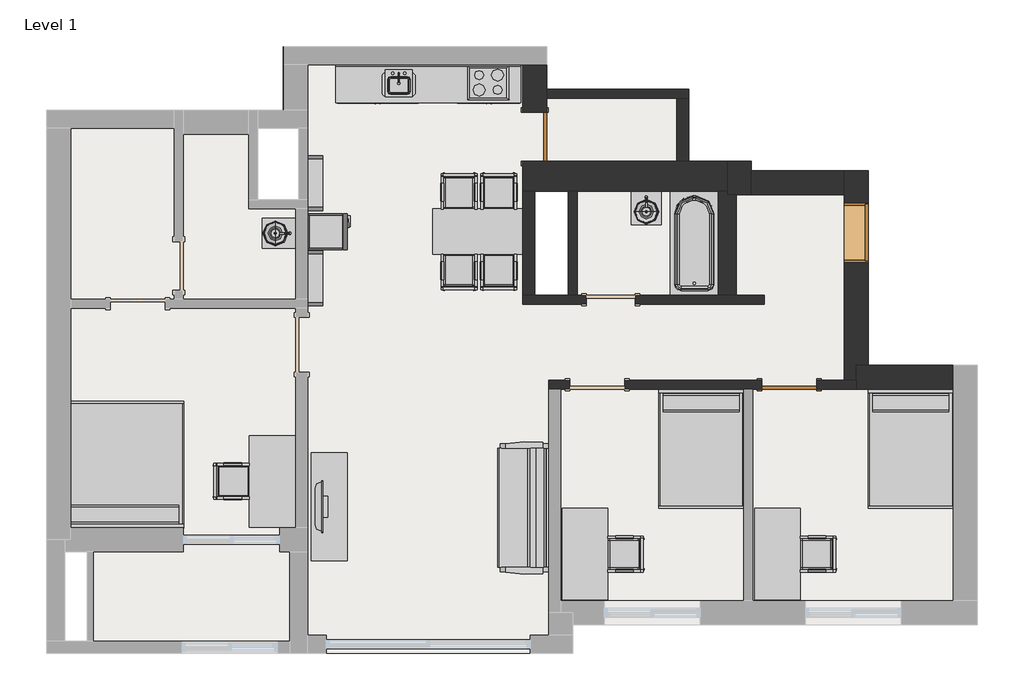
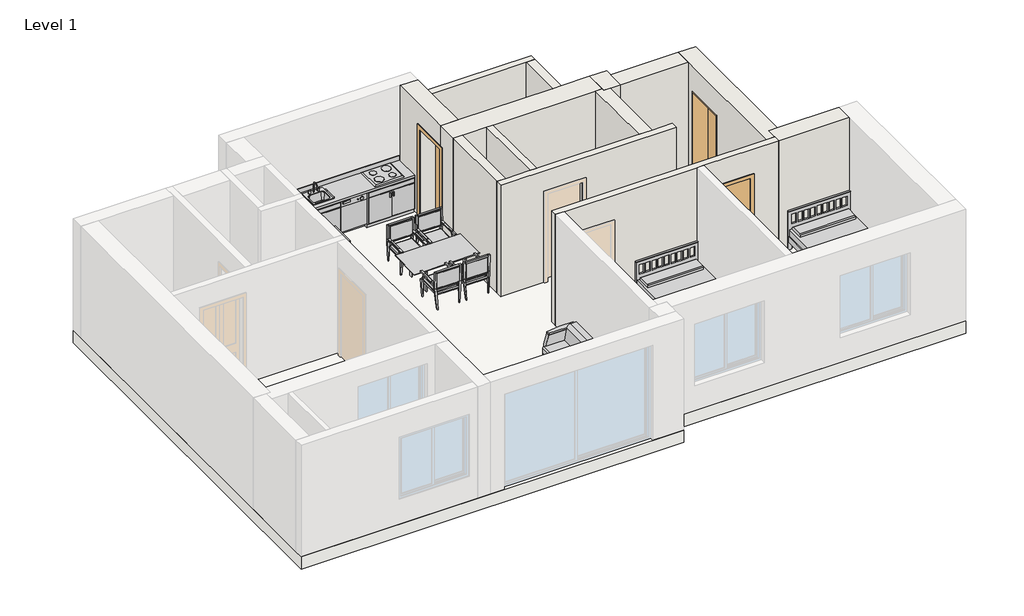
# One storey, part 2 of 2: 20 furniture elements, 13 walls, 4 flow terminals, 4 proxies, 3 doors, 1 slab.
"""IFC4 building model written with IfcOpenShell, lengths in millimetres."""

from ifc_helpers import new_model, si_unit, frame, origin, origin_with_axes, place, context, project, spatial, polyline, outline, extrude, faceted_brep, transform, mapped, element, save
from components import specialty_equipment_54e90587, proxy_0615_x_500mm_249f3515, proxy_600_x_660mm_a466bf94, proxy_610_x_610_x_875mm_54ecfc4c, door_1000_x_2100_mm_43353cf2, m_single_flush_0813_x_2134mm_e3698503, m_single_flush_0915_x_2032mm_d0c19338, flow_terminal_f2fd3159, flow_terminal_1525x_762mm_186bff3d, flow_terminal_450_x_450mm_f969cf2d, furniture_ea7191d8, furniture_142b1b11, furniture_9ca80f25, furniture_0762_x_1525mm_a1e3a7ba, furniture_0810mm_56245f3a, furniture_0915_x_0254_x_1830mm_1d5e155e, furniture_1800x600x400mm_3b2bede9, furniture_2134mm_91f3548c, furniture_600x590x910mm_44f9a749, furniture_600x590x910mm_f1c21ba5

model = new_model("IFC4")

# Units and contexts
model_context = context("Model", 3, world=origin())
ifc_project = project(units=[si_unit("LENGTHUNIT", "METRE", prefix="MILLI")], contexts=[model_context])

# Site, building, storey
site = spatial("IfcSite", under=ifc_project)
building = spatial("IfcBuilding", under=site)
storey = spatial("IfcBuildingStorey", under=building, Name="Level 1", Elevation=0.0)

# Proxies
placement = place(None, origin())
specialty_equipment_shape = specialty_equipment_54e90587(model_context)
element("IfcBuildingElementProxy", 1, Name="간이 부엌 - 중간 - 복사본1 : 간이 부엌 - 중간 - 복사본1", ObjectType="간이 부엌 - 중간 - 복사본1 : 간이 부엌 - 중간 - 복사본1", at=placement, inside=storey, context=model_context, shape_type="MappedRepresentation", body=[
    mapped(specialty_equipment_shape, transform((-1946.9362419, 5343.172032, 0.0), x_axis=(1.0, 0.0, 0.0), y_axis=(0.0, 1.0, 0.0), z_axis=(0.0, 0.0, 1.0))),
])
proxy_0615_x_500mm_shape = proxy_0615_x_500mm_249f3515(model_context)
element("IfcBuildingElementProxy", 2, Name="M_쿡탑-유닛2 4개 : 0615 x 500mm", ObjectType="M_쿡탑-유닛2 4개 : 0615 x 500mm", at=placement, inside=storey, context=model_context, shape_type="MappedRepresentation", body=[
    mapped(proxy_0615_x_500mm_shape, transform((-84.148537, 5044.122032, 15.0), x_axis=(1.0, 0.0, 0.0), y_axis=(0.0, 1.0, 0.0), z_axis=(0.0, 0.0, 1.0))),
])
proxy_600_x_660mm_shape = proxy_600_x_660mm_a466bf94(model_context)
element("IfcBuildingElementProxy", 3, Name="냉장고 : 600 x 660mm", ObjectType="냉장고 : 600 x 660mm", at=placement, inside=storey, context=model_context, shape_type="MappedRepresentation", body=[
    mapped(proxy_600_x_660mm_shape, transform((-2795.5617756, 2616.9731747, 0.0), x_axis=(0.0, 1.0, 0.0), y_axis=(-1.0, 0.0, 0.0), z_axis=(0.0, 0.0, 1.0))),
])
proxy_610_x_610_x_875mm_shape = proxy_610_x_610_x_875mm_54ecfc4c(model_context)
element("IfcBuildingElementProxy", 4, Name="M_식기 세척기 : 610 x 610 x 875mm", ObjectType="M_식기 세척기 : 610 x 610 x 875mm", at=placement, inside=storey, context=model_context, shape_type="MappedRepresentation", body=[
    mapped(proxy_610_x_610_x_875mm_shape, transform((-1310.7160055, 4771.5224672, 0.0), x_axis=(1.0, 0.0, 0.0), y_axis=(0.0, 1.0, 0.0), z_axis=(0.0, 0.0, 1.0))),
])

# Doors
door_1000_x_2100_mm_shape = door_1000_x_2100_mm_43353cf2(model_context)
element("IfcDoor", 5, ObjectType="외여닫이 SD : 1000 x 2100 mm", at=placement, inside=storey, context=model_context, shape_type="MappedRepresentation", body=[
    mapped(door_1000_x_2100_mm_shape, transform((6039.4080051, 2543.172032, 0.0), x_axis=(0.0, 1.0, 0.0), y_axis=(-1.0, 0.0, 0.0), z_axis=(0.0, 0.0, 1.0))),
])
m_single_flush_0813_x_2134mm_shape = m_single_flush_0813_x_2134mm_e3698503(model_context)
element("IfcDoor", 6, ObjectType="M_Single-Flush : 0813 x 2134mm", at=placement, inside=storey, context=model_context, shape_type="MappedRepresentation", body=[
    mapped(m_single_flush_0813_x_2134mm_shape, transform((688.2231342, 4139.672032, 0.0), x_axis=(0.0, -1.0, 0.0), y_axis=(1.0, 0.0, 0.0), z_axis=(0.0, 0.0, 1.0))),
])
m_single_flush_0915_x_2032mm_shape = m_single_flush_0915_x_2032mm_d0c19338(model_context)
element("IfcDoor", 7, ObjectType="M_Single-Flush : 0915 x 2032mm", at=placement, inside=storey, context=model_context, shape_type="MappedRepresentation", body=[
    mapped(m_single_flush_0915_x_2032mm_shape, transform((4928.5630343, 8.172032, 0.0), x_axis=(-1.0, 0.0, 0.0), y_axis=(0.0, -1.0, 0.0), z_axis=(0.0, 0.0, 1.0))),
])

# Flow terminals
flow_terminal_shape = flow_terminal_f2fd3159(model_context)
element("IfcFlowTerminal", 8, ObjectType="싱크대 - 욕실(3) : 싱크대 - 욕실(3)", at=placement, inside=storey, context=model_context, shape_type="MappedRepresentation", body=[
    mapped(flow_terminal_shape, transform((2521.2093991, 3233.172032, 600.0), x_axis=(1.0, 0.0, 0.0), y_axis=(0.0, 1.0, 0.0), z_axis=(0.0, 0.0, 1.0))),
])
element("IfcFlowTerminal", 9, ObjectType="싱크대 - 욕실(3) : 싱크대 - 욕실(3)", at=placement, inside=storey, context=model_context, shape_type="MappedRepresentation", body=[
    mapped(flow_terminal_shape, transform((-3291.7768658, 2558.0218986, 600.0), x_axis=(0.0, -1.0, 0.0), y_axis=(1.0, 0.0, 0.0), z_axis=(0.0, 0.0, 1.0))),
])
flow_terminal_1525x_762mm_shape = flow_terminal_1525x_762mm_186bff3d(model_context)
element("IfcFlowTerminal", 10, ObjectType="욕조-직사각형-3D : 1525x 762mm", at=placement, inside=storey, context=model_context, shape_type="MappedRepresentation", body=[
    mapped(flow_terminal_1525x_762mm_shape, transform((3896.0592657, 2613.7750007, 0.0), x_axis=(0.0, 1.0, 0.0), y_axis=(-1.0, 0.0, 0.0), z_axis=(0.0, 0.0, 1.0))),
])
flow_terminal_450_x_450mm_shape = flow_terminal_450_x_450mm_f969cf2d(model_context)
element("IfcFlowTerminal", 11, ObjectType="M_싱크대 부엌-아일랜드 : 450 x 450mm", at=placement, inside=storey, context=model_context, shape_type="MappedRepresentation", body=[
    mapped(flow_terminal_450_x_450mm_shape, transform((-1589.8377776, 5031.0766309, 15.0), x_axis=(1.0, 0.0, 0.0), y_axis=(0.0, 1.0, 0.0), z_axis=(0.0, 0.0, 1.0))),
])

# Furniture
furniture_shape = furniture_ea7191d8(model_context)
element("IfcFurniture", 12, ObjectType="침대-흔들장치 : 1422 x 1981mm - 이중", at=placement, inside=storey, context=model_context, shape_type="MappedRepresentation", body=[
    mapped(furniture_shape, transform((3479.1130343, -66.827968, 0.0), x_axis=(1.0, 0.0, 0.0), y_axis=(0.0, 1.0, 0.0), z_axis=(0.0, 0.0, 1.0))),
])
element("IfcFurniture", 13, ObjectType="침대-흔들장치 : 1422 x 1981mm - 이중", at=placement, inside=storey, context=model_context, shape_type="MappedRepresentation", body=[
    mapped(furniture_shape, transform((6969.4580051, -66.827968, 0.0), x_axis=(1.0, 0.0, 0.0), y_axis=(0.0, 1.0, 0.0), z_axis=(0.0, 0.0, 1.0))),
])
furniture_2_shape = furniture_142b1b11(model_context)
element("IfcFurniture", 14, ObjectType="침대-흔들장치 : 1981 x 2108mm - 킹", at=placement, inside=storey, context=model_context, shape_type="MappedRepresentation", body=[
    mapped(furniture_2_shape, transform((-6169.1419949, -2366.827968, 0.0), x_axis=(-1.0, 0.0, 0.0), y_axis=(0.0, -1.0, 0.0), z_axis=(0.0, 0.0, 1.0))),
])
furniture_3_shape = furniture_9ca80f25(model_context)
element("IfcFurniture", 15, ObjectType="M_싱크대 개구부가 있는 작업대 상단 : 600mm 깊이", at=placement, inside=storey, context=model_context, shape_type="MappedRepresentation", body=[
    mapped(furniture_3_shape, transform((-1422.6612419, 5336.4541396, 15.0), x_axis=(1.0, 0.0, 0.0), y_axis=(0.0, 1.0, 0.0), z_axis=(0.0, 0.0, 1.0))),
])
furniture_0762_x_1525mm_shape = furniture_0762_x_1525mm_a1e3a7ba(model_context)
element("IfcFurniture", 16, ObjectType="테이블-식탁 : 0762 x 1525mm", at=placement, inside=storey, context=model_context, shape_type="MappedRepresentation", body=[
    mapped(furniture_0762_x_1525mm_shape, transform((-232.3262283, 2657.3831098, 0.0), x_axis=(-1.0, 0.0, 0.0), y_axis=(0.0, -1.0, 0.0), z_axis=(0.0, 0.0, 1.0))),
])
element("IfcFurniture", 17, ObjectType="테이블-식탁 : 0762 x 1525mm", at=placement, inside=storey, context=model_context, shape_type="MappedRepresentation", body=[
    mapped(furniture_0762_x_1525mm_shape, transform((1619.8413989, -2825.0937347, 0.0), x_axis=(0.0, 1.0, 0.0), y_axis=(-1.0, 0.0, 0.0), z_axis=(0.0, 0.0, 1.0))),
])
element("IfcFurniture", 18, ObjectType="테이블-식탁 : 0762 x 1525mm", at=placement, inside=storey, context=model_context, shape_type="MappedRepresentation", body=[
    mapped(furniture_0762_x_1525mm_shape, transform((4823.4582229, -2825.0937347, 0.0), x_axis=(0.0, 1.0, 0.0), y_axis=(-1.0, 0.0, 0.0), z_axis=(0.0, 0.0, 1.0))),
])
element("IfcFurniture", 19, ObjectType="테이블-식탁 : 0762 x 1525mm", at=placement, inside=storey, context=model_context, shape_type="MappedRepresentation", body=[
    mapped(furniture_0762_x_1525mm_shape, transform((-3778.2939108, -1577.5587048, 0.0), x_axis=(0.0, -1.0, 0.0), y_axis=(1.0, 0.0, 0.0), z_axis=(0.0, 0.0, 1.0))),
])
furniture_0810mm_shape = furniture_0810mm_56245f3a(model_context)
element("IfcFurniture", 20, ObjectType="TV-평면 화면 : 0810mm", at=placement, inside=storey, context=model_context, shape_type="MappedRepresentation", body=[
    mapped(furniture_0810mm_shape, transform((-2911.7704729, -2012.8834538, 400.0), x_axis=(0.0, 1.0, 0.0), y_axis=(-1.0, 0.0, 0.0), z_axis=(0.0, 0.0, 1.0))),
])
furniture_0915_x_0254_x_1830mm_shape = furniture_0915_x_0254_x_1830mm_1d5e155e(model_context)
element("IfcFurniture", 21, ObjectType="선반 : 0915 x 0254 x 1830mm", at=placement, inside=storey, context=model_context, shape_type="MappedRepresentation", body=[
    mapped(furniture_0915_x_0254_x_1830mm_shape, transform((-3269.5768658, 1785.672032, 0.0), x_axis=(0.0, 1.0, 0.0), y_axis=(-1.0, 0.0, 0.0), z_axis=(0.0, 0.0, 1.0))),
])
element("IfcFurniture", 22, ObjectType="선반 : 0915 x 0254 x 1830mm", at=placement, inside=storey, context=model_context, shape_type="MappedRepresentation", body=[
    mapped(furniture_0915_x_0254_x_1830mm_shape, transform((-3269.5768658, 3370.672032, 0.0), x_axis=(0.0, 1.0, 0.0), y_axis=(-1.0, 0.0, 0.0), z_axis=(0.0, 0.0, 1.0))),
])
furniture_1800x600x400mm_shape = furniture_1800x600x400mm_3b2bede9(model_context)
element("IfcFurniture", 23, ObjectType="캐비닛 TV : 1800x600x400mm", at=placement, inside=storey, context=model_context, shape_type="MappedRepresentation", body=[
    mapped(furniture_1800x600x400mm_shape, transform((-2702.0919949, -2016.827968, 0.0), x_axis=(0.0, 1.0, 0.0), y_axis=(-1.0, 0.0, 0.0), z_axis=(0.0, 0.0, 1.0))),
])
furniture_2134mm_shape = furniture_2134mm_91f3548c(model_context)
element("IfcFurniture", 24, ObjectType="소파-Pensi : 2134mm", at=placement, inside=storey, context=model_context, shape_type="MappedRepresentation", body=[
    mapped(furniture_2134mm_shape, transform((211.1132981, -1758.221718, 0.0), x_axis=(0.0, -1.0, 0.0), y_axis=(1.0, 0.0, 0.0), z_axis=(0.0, 0.0, 1.0))),
])
furniture_600x590x910mm_shape = furniture_600x590x910mm_44f9a749(model_context)
element("IfcFurniture", 25, ObjectType="의자 2 : 600x590x910mm", at=placement, inside=storey, context=model_context, shape_type="MappedRepresentation", body=[
    mapped(furniture_600x590x910mm_shape, transform((88.2231342, 3233.172032, 0.0), x_axis=(1.0, 0.0, 0.0), y_axis=(0.0, 1.0, 0.0), z_axis=(0.0, 0.0, 1.0))),
])
element("IfcFurniture", 26, ObjectType="의자 2 : 600x590x910mm", at=placement, inside=storey, context=model_context, shape_type="MappedRepresentation", body=[
    mapped(furniture_600x590x910mm_shape, transform((-571.7768658, 3233.172032, 0.0), x_axis=(1.0, 0.0, 0.0), y_axis=(0.0, 1.0, 0.0), z_axis=(0.0, 0.0, 1.0))),
])
element("IfcFurniture", 27, ObjectType="의자 2 : 600x590x910mm", at=placement, inside=storey, context=model_context, shape_type="MappedRepresentation", body=[
    mapped(furniture_600x590x910mm_shape, transform((2200.6700504, -2806.827968, 0.0), x_axis=(0.0, -1.0, 0.0), y_axis=(1.0, 0.0, 0.0), z_axis=(0.0, 0.0, 1.0))),
])
element("IfcFurniture", 28, ObjectType="의자 2 : 600x590x910mm", at=placement, inside=storey, context=model_context, shape_type="MappedRepresentation", body=[
    mapped(furniture_600x590x910mm_shape, transform((5404.2868743, -2806.827968, 0.0), x_axis=(0.0, -1.0, 0.0), y_axis=(1.0, 0.0, 0.0), z_axis=(0.0, 0.0, 1.0))),
])
element("IfcFurniture", 29, ObjectType="의자 2 : 600x590x910mm", at=placement, inside=storey, context=model_context, shape_type="MappedRepresentation", body=[
    mapped(furniture_600x590x910mm_shape, transform((-4359.1225622, -1595.8244715, 0.0), x_axis=(0.0, 1.0, 0.0), y_axis=(-1.0, 0.0, 0.0), z_axis=(0.0, 0.0, 1.0))),
])
furniture_600x590x910mm_2_shape = furniture_600x590x910mm_f1c21ba5(model_context)
element("IfcFurniture", 30, ObjectType="의자 2 : 600x590x910mm", at=placement, inside=storey, context=model_context, shape_type="MappedRepresentation", body=[
    mapped(furniture_600x590x910mm_2_shape, transform((88.2231342, 1891.172032, 0.0), x_axis=(1.0, 0.0, 0.0), y_axis=(0.0, 1.0, 0.0), z_axis=(0.0, 0.0, 1.0))),
])
element("IfcFurniture", 31, ObjectType="의자 2 : 600x590x910mm", at=placement, inside=storey, context=model_context, shape_type="MappedRepresentation", body=[
    mapped(furniture_600x590x910mm_2_shape, transform((-571.7768658, 1891.172032, 0.0), x_axis=(1.0, 0.0, 0.0), y_axis=(0.0, 1.0, 0.0), z_axis=(0.0, 0.0, 1.0))),
])

# Slab
element("IfcSlab", 32, ObjectType="Generic 300mm", at=placement, inside=storey, context=model_context, shape_type="SweptSolid", body=[
    extrude(outline(polyline([(-3500.5919949, 5643.172032), (888.2231342, 5643.172032), (888.2231342, 4933.172032), (3251.0630343, 4933.172032), (3251.0630343, 3733.172032), (4296.0592657, 3733.172032), (4296.0592657, 3573.172032), (6239.4080051, 3573.172032), (6239.4080051, 333.172032), (8059.4080051, 333.172032), (8059.4080051, -3986.827968), (1324.6303211, -3986.827968), (1324.6303211, -4456.827968), (-7440.5919949, -4456.827968), (-7440.5919949, 4583.172032), (-3500.5919949, 4583.172032), (-3500.5919949, 5643.172032)]), holes=[polyline([(1248.2231342, 3233.172032), (688.2231342, 3233.172032), (688.2231342, 1503.172032), (1248.2231342, 1503.172032), (1248.2231342, 3233.172032)]), polyline([(-3241.7768658, 4283.172032), (-3925.5919949, 4283.172032), (-3925.5919949, 3093.172032), (-3241.7768658, 3093.172032), (-3241.7768658, 4283.172032)]), polyline([(-6760.5919949, -2766.827968), (-7140.5919949, -2766.827968), (-7140.5919949, -4256.827968), (-6760.5919949, -4256.827968), (-6760.5919949, -2766.827968)])]), frame((0.0, 0.0, -300.0), z_axis=(0.0, 0.0, 1.0), x_axis=(1.0, 0.0, 0.0)), (0.0, 0.0, 1.0), 300.0),
])

# Walls
element("IfcWall", 33, ObjectType="Generic 150mm Wall", at=placement, inside=storey, context=model_context, shape_type="Brep", body=[
    faceted_brep([(3251.0630343, 4933.172032, 0.0), (888.2231342, 4933.172032, 0.0), (888.2231342, 4933.172032, 2700.0), (3251.0630343, 4933.172032, 2700.0), (3251.0630343, 4783.172032, 0.0), (3251.0630343, 4783.172032, 2700.0), (3051.0630343, 4783.172032, 2700.0), (888.2231342, 4783.172032, 2700.0), (888.2231342, 4783.172032, 0.0), (3051.0630343, 4783.172032, 0.0)], [[[0, 1, 2, 3]], [[4, 5, 6, 7, 8, 9]], [[1, 0, 4, 9, 8]], [[3, 2, 7, 6, 5]], [[0, 3, 5, 4]], [[2, 1, 8, 7]]]),
])
element("IfcWall", 34, ObjectType="Generic 150mm Wall", at=placement, inside=storey, context=model_context, shape_type="SweptSolid", body=[
    extrude(outline(polyline([(1398.2231342, 3233.172032), (1398.2231342, 1503.172032), (1248.2231342, 1503.172032), (1248.2231342, 3233.172032), (1398.2231342, 3233.172032)])), origin_with_axes(), (0.0, 0.0, 1.0), 2700.0),
])
element("IfcWall", 35, ObjectType="Generic 150mm Wall", at=placement, inside=storey, context=model_context, shape_type="Brep", body=[
    faceted_brep([(1548.2231342, 1503.172032, 2134.0), (1548.2231342, 1503.172032, 0.0), (1398.2231342, 1503.172032, 0.0), (1248.2231342, 1503.172032, 0.0), (688.2231342, 1503.172032, 0.0), (488.2231342, 1503.172032, 0.0), (488.2231342, 1503.172032, 2700.0), (688.2231342, 1503.172032, 2700.0), (1248.2231342, 1503.172032, 2700.0), (1398.2231342, 1503.172032, 2700.0), (3746.0592657, 1503.172032, 2700.0), (4046.0592657, 1503.172032, 2700.0), (4508.2231342, 1503.172032, 2700.0), (4508.2231342, 1503.172032, 0.0), (4046.0592657, 1503.172032, 0.0), (3746.0592657, 1503.172032, 0.0), (2361.2231342, 1503.172032, 0.0), (2361.2231342, 1503.172032, 2134.0), (488.2231342, 1353.172032, 0.0), (1548.2231342, 1353.172032, 0.0), (1548.2231342, 1353.172032, 2134.0), (2361.2231342, 1353.172032, 2134.0), (2361.2231342, 1353.172032, 0.0), (4508.2231342, 1353.172032, 0.0), (4508.2231342, 1353.172032, 2700.0), (488.2231342, 1353.172032, 2700.0)], [[[0, 1, 2, 3, 4, 5, 6, 7, 8, 9, 10, 11, 12, 13, 14, 15, 16, 17]], [[18, 19, 20, 21, 22, 23, 24, 25]], [[5, 4, 3, 2, 1, 19, 18]], [[16, 15, 14, 13, 23, 22]], [[12, 11, 10, 9, 8, 7, 6, 25, 24]], [[13, 12, 24, 23]], [[6, 5, 18, 25]], [[20, 19, 1, 0]], [[21, 20, 0, 17]], [[22, 21, 17, 16]]]),
])
element("IfcWall", 36, ObjectType="Generic 150mm Wall", at=placement, inside=storey, context=model_context, shape_type="Brep", body=[
    faceted_brep([(4471.0630343, 83.172032, 2032.0), (4471.0630343, 83.172032, 0.0), (2189.6303211, 83.172032, 0.0), (2189.6303211, 83.172032, 2032.0), (1274.6303211, 83.172032, 2032.0), (1274.6303211, 83.172032, 0.0), (924.6303211, 83.172032, 0.0), (924.6303211, 83.172032, 2700.0), (5839.4080051, 83.172032, 2700.0), (6039.4080051, 83.172032, 2700.0), (6039.4080051, 83.172032, 0.0), (5839.4080051, 83.172032, 0.0), (5386.0630343, 83.172032, 0.0), (5386.0630343, 83.172032, 2032.0), (2189.6303211, -66.827968, 0.0), (4171.0630343, -66.827968, 0.0), (4321.0630343, -66.827968, 0.0), (4471.0630343, -66.827968, 0.0), (4471.0630343, -66.827968, 2032.0), (5386.0630343, -66.827968, 2032.0), (5386.0630343, -66.827968, 0.0), (6039.4080051, -66.827968, 0.0), (6039.4080051, -66.827968, 2700.0), (4321.0630343, -66.827968, 2700.0), (4171.0630343, -66.827968, 2700.0), (1124.6303211, -66.827968, 2700.0), (924.6303211, -66.827968, 2700.0), (924.6303211, -66.827968, 0.0), (1124.6303211, -66.827968, 0.0), (1274.6303211, -66.827968, 0.0), (1274.6303211, -66.827968, 2032.0), (2189.6303211, -66.827968, 2032.0)], [[[0, 1, 2, 3, 4, 5, 6, 7, 8, 9, 10, 11, 12, 13]], [[14, 15, 16, 17, 18, 19, 20, 21, 22, 23, 24, 25, 26, 27, 28, 29, 30, 31]], [[6, 5, 29, 28, 27]], [[2, 1, 17, 16, 15, 14]], [[12, 11, 10, 21, 20]], [[9, 8, 7, 26, 25, 24, 23, 22]], [[10, 9, 22, 21]], [[7, 6, 27, 26]], [[30, 29, 5, 4]], [[31, 30, 4, 3]], [[14, 31, 3, 2]], [[18, 17, 1, 0]], [[19, 18, 0, 13]], [[20, 19, 13, 12]]]),
])
element("IfcWall", 37, ObjectType="Generic 200mm Wall", at=placement, inside=storey, context=model_context, shape_type="SweptSolid", body=[
    extrude(outline(polyline([(688.2231342, 3233.172032), (688.2231342, 1503.172032), (488.2231342, 1503.172032), (488.2231342, 3233.172032), (688.2231342, 3233.172032)])), origin_with_axes(), (0.0, 0.0, 1.0), 2700.0),
])
element("IfcWall", 38, ObjectType="Generic 200mm Wall", at=placement, inside=storey, context=model_context, shape_type="SweptSolid", body=[
    extrude(outline(polyline([(3251.0630343, 4783.172032), (3251.0630343, 3733.172032), (3051.0630343, 3733.172032), (3051.0630343, 4783.172032), (3251.0630343, 4783.172032)])), origin_with_axes(), (0.0, 0.0, 1.0), 2700.0),
])
element("IfcWall", 39, ObjectType="Generic 300mm Wall", at=placement, inside=storey, context=model_context, shape_type="SweptSolid", body=[
    extrude(outline(polyline([(3746.0592657, 1503.172032), (3746.0592657, 3233.172032), (3896.0592657, 3233.172032), (3896.0592657, 3173.172032), (4046.0592657, 3173.172032), (4046.0592657, 1503.172032), (3746.0592657, 1503.172032)])), origin_with_axes(), (0.0, 0.0, 1.0), 2700.0),
])
element("IfcWall", 40, ObjectType="Generic 400mm Wall", at=placement, inside=storey, context=model_context, shape_type="Brep", body=[
    faceted_brep([(488.2231342, 3733.172032, 2700.0), (488.2231342, 5343.172032, 2700.0), (488.2231342, 5343.172032, 0.0), (488.2231342, 4546.172032, 0.0), (488.2231342, 4546.172032, 2134.0), (488.2231342, 3733.172032, 2134.0), (888.2231342, 5343.172032, 2700.0), (888.2231342, 4933.172032, 2700.0), (888.2231342, 4783.172032, 2700.0), (888.2231342, 3733.172032, 2700.0), (888.2231342, 3733.172032, 2134.0), (888.2231342, 4546.172032, 2134.0), (888.2231342, 4546.172032, 0.0), (888.2231342, 4783.172032, 0.0), (888.2231342, 4933.172032, 0.0), (888.2231342, 5343.172032, 0.0)], [[[0, 1, 2, 3, 4, 5]], [[6, 7, 8, 9, 10, 11, 12, 13, 14, 15]], [[2, 15, 14, 13, 12, 3]], [[1, 0, 9, 8, 7, 6]], [[2, 1, 6, 15]], [[9, 0, 5, 10]], [[4, 11, 10, 5]], [[11, 4, 3, 12]]]),
])
element("IfcWall", 41, ObjectType="Generic 400mm Wall", at=placement, inside=storey, context=model_context, shape_type="Brep", body=[
    faceted_brep([(6039.4080051, -66.827968, 0.0), (7659.4080051, -66.827968, 0.0), (7659.4080051, -66.827968, 2700.0), (6039.4080051, -66.827968, 2700.0), (6039.4080051, 333.172032, 0.0), (6039.4080051, 333.172032, 2700.0), (6239.4080051, 333.172032, 2700.0), (7659.4080051, 333.172032, 2700.0), (7659.4080051, 333.172032, 0.0), (6239.4080051, 333.172032, 0.0), (6039.4080051, 83.172032, 0.0), (6039.4080051, 83.172032, 2700.0)], [[[0, 1, 2, 3]], [[4, 5, 6, 7, 8, 9]], [[1, 0, 10, 4, 9, 8]], [[3, 2, 7, 6, 5, 11]], [[0, 3, 11, 5, 4, 10]], [[2, 1, 8, 7]]]),
])
element("IfcWall", 42, ObjectType="Generic 400mm Wall", at=placement, inside=storey, context=model_context, shape_type="Brep", body=[
    faceted_brep([(6239.4080051, 3573.172032, 2700.0), (6239.4080051, 333.172032, 2700.0), (6239.4080051, 333.172032, 0.0), (6239.4080051, 2043.172032, 0.0), (6239.4080051, 2043.172032, 2100.0), (6239.4080051, 3043.172032, 2100.0), (6239.4080051, 3043.172032, 0.0), (6239.4080051, 3573.172032, 0.0), (5839.4080051, 83.172032, 2700.0), (5839.4080051, 3173.172032, 2700.0), (5839.4080051, 3573.172032, 2700.0), (5839.4080051, 3573.172032, 0.0), (5839.4080051, 3173.172032, 0.0), (5839.4080051, 3043.172032, 0.0), (5839.4080051, 3043.172032, 2100.0), (5839.4080051, 2043.172032, 2100.0), (5839.4080051, 2043.172032, 0.0), (5839.4080051, 83.172032, 0.0), (6039.4080051, 333.172032, 0.0), (6039.4080051, 83.172032, 0.0), (6039.4080051, 83.172032, 2700.0), (6039.4080051, 333.172032, 2700.0)], [[[0, 1, 2, 3, 4, 5, 6, 7]], [[8, 9, 10, 11, 12, 13, 14, 15, 16, 17]], [[2, 18, 19, 17, 16, 3]], [[11, 7, 6, 13, 12]], [[1, 0, 10, 9, 8, 20, 21]], [[2, 1, 21, 18]], [[21, 20, 19, 18]], [[8, 17, 19, 20]], [[0, 7, 11, 10]], [[5, 14, 13, 6]], [[14, 5, 4, 15]], [[15, 4, 3, 16]]]),
])
element("IfcWall", 43, ObjectType="Generic 400mm Wall", at=placement, inside=storey, context=model_context, shape_type="SweptSolid", body=[
    extrude(outline(polyline([(5839.4080051, 3173.172032), (4296.0592657, 3173.172032), (4296.0592657, 3573.172032), (5839.4080051, 3573.172032), (5839.4080051, 3173.172032)])), origin_with_axes(), (0.0, 0.0, 1.0), 2700.0),
])
element("IfcWall", 44, ObjectType="Generic 400mm Wall", at=placement, inside=storey, context=model_context, shape_type="Brep", body=[
    faceted_brep([(3896.0592657, 3733.172032, 0.0), (3896.0592657, 3233.172032, 0.0), (3896.0592657, 3173.172032, 0.0), (3896.0592657, 3173.172032, 2700.0), (3896.0592657, 3233.172032, 2700.0), (3896.0592657, 3733.172032, 2700.0), (4296.0592657, 3733.172032, 0.0), (4296.0592657, 3733.172032, 2700.0), (4296.0592657, 3573.172032, 2700.0), (4296.0592657, 3173.172032, 2700.0), (4296.0592657, 3173.172032, 0.0), (4296.0592657, 3573.172032, 0.0), (4046.0592657, 3173.172032, 0.0), (4046.0592657, 3173.172032, 2700.0)], [[[0, 1, 2, 3, 4, 5]], [[6, 7, 8, 9, 10, 11]], [[2, 1, 0, 6, 11, 10, 12]], [[5, 4, 3, 13, 9, 8, 7]], [[0, 5, 7, 6]], [[3, 2, 12, 10, 9, 13]]]),
])
element("IfcWall", 45, ObjectType="Generic 500mm Wall", at=placement, inside=storey, context=model_context, shape_type="Brep", body=[
    faceted_brep([(488.2231342, 3233.172032, 0.0), (688.2231342, 3233.172032, 0.0), (1248.2231342, 3233.172032, 0.0), (1398.2231342, 3233.172032, 0.0), (3746.0592657, 3233.172032, 0.0), (3896.0592657, 3233.172032, 0.0), (3896.0592657, 3233.172032, 2700.0), (3746.0592657, 3233.172032, 2700.0), (1398.2231342, 3233.172032, 2700.0), (1248.2231342, 3233.172032, 2700.0), (688.2231342, 3233.172032, 2700.0), (488.2231342, 3233.172032, 2700.0), (488.2231342, 3733.172032, 0.0), (488.2231342, 3733.172032, 2134.0), (488.2231342, 3733.172032, 2700.0), (888.2231342, 3733.172032, 2700.0), (3051.0630343, 3733.172032, 2700.0), (3251.0630343, 3733.172032, 2700.0), (3896.0592657, 3733.172032, 2700.0), (3896.0592657, 3733.172032, 0.0), (3251.0630343, 3733.172032, 0.0), (3051.0630343, 3733.172032, 0.0)], [[[0, 1, 2, 3, 4, 5, 6, 7, 8, 9, 10, 11]], [[12, 13, 14, 15, 16, 17, 18, 19, 20, 21]], [[5, 4, 3, 2, 1, 0, 12, 21, 20, 19]], [[11, 10, 9, 8, 7, 6, 18, 17, 16, 15, 14]], [[0, 11, 14, 13, 12]], [[6, 5, 19, 18]]]),
])

save(model, "model.ifc")
